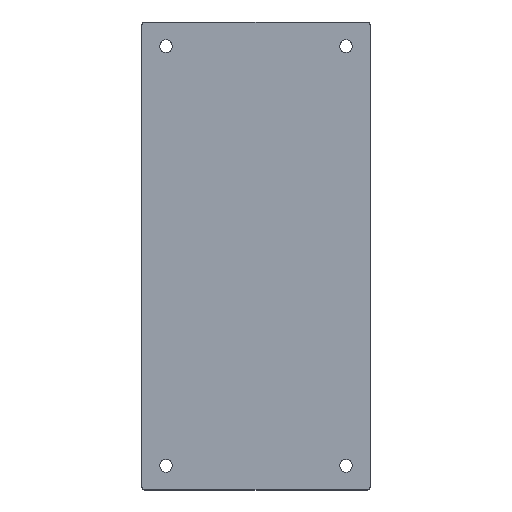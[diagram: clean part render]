
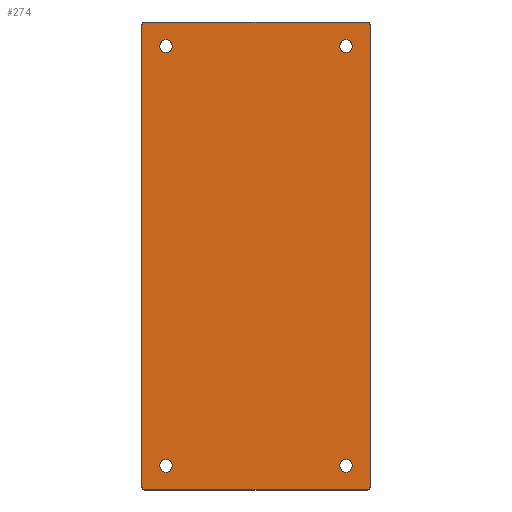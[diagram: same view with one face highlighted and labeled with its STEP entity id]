
A CAD part, top view. The second image highlights one B-rep face of the part: STEP entity #274.
In plain terms, the highlighted planar face has unit normal (0, 0, 1).
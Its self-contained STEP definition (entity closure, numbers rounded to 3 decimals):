
#274=ADVANCED_FACE('',(#706,#707,#708,#709,#710),#711,.T.);
#706=FACE_OUTER_BOUND('',#1155,.T.);
#707=FACE_BOUND('',#1156,.T.);
#708=FACE_BOUND('',#1157,.T.);
#709=FACE_BOUND('',#1158,.T.);
#710=FACE_BOUND('',#1159,.T.);
#711=PLANE('',#1160);
#1155=EDGE_LOOP('',(#2949,#2950,#2951,#2952,#2953,#2954,#2955,#2956,#2957,#2958,#2959,#2960));
#1156=EDGE_LOOP('',(#2961,#2962));
#1157=EDGE_LOOP('',(#2963,#2964));
#1158=EDGE_LOOP('',(#2965,#2966));
#1159=EDGE_LOOP('',(#2967,#2968));
#1160=AXIS2_PLACEMENT_3D('',#2969,#2970,#2971);
#2949=ORIENTED_EDGE('',*,*,#3653,.F.);
#2950=ORIENTED_EDGE('',*,*,#3654,.F.);
#2951=ORIENTED_EDGE('',*,*,#3616,.F.);
#2952=ORIENTED_EDGE('',*,*,#3655,.F.);
#2953=ORIENTED_EDGE('',*,*,#3656,.F.);
#2954=ORIENTED_EDGE('',*,*,#3620,.F.);
#2955=ORIENTED_EDGE('',*,*,#3657,.F.);
#2956=ORIENTED_EDGE('',*,*,#3658,.F.);
#2957=ORIENTED_EDGE('',*,*,#3624,.F.);
#2958=ORIENTED_EDGE('',*,*,#3659,.F.);
#2959=ORIENTED_EDGE('',*,*,#3660,.F.);
#2960=ORIENTED_EDGE('',*,*,#3628,.F.);
#2961=ORIENTED_EDGE('',*,*,#3630,.T.);
#2962=ORIENTED_EDGE('',*,*,#3652,.T.);
#2963=ORIENTED_EDGE('',*,*,#3634,.T.);
#2964=ORIENTED_EDGE('',*,*,#3650,.T.);
#2965=ORIENTED_EDGE('',*,*,#3638,.T.);
#2966=ORIENTED_EDGE('',*,*,#3648,.T.);
#2967=ORIENTED_EDGE('',*,*,#3642,.T.);
#2968=ORIENTED_EDGE('',*,*,#3646,.T.);
#2969=CARTESIAN_POINT('',(18.9,38.75,7.0));
#2970=DIRECTION('',(0.0,0.0,1.0));
#2971=DIRECTION('',(1.0,0.0,0.0));
#3616=EDGE_CURVE('',#4613,#4609,#4615,.T.);
#3620=EDGE_CURVE('',#4621,#4617,#4623,.T.);
#3624=EDGE_CURVE('',#4629,#4625,#4631,.T.);
#3628=EDGE_CURVE('',#4637,#4633,#4639,.T.);
#3630=EDGE_CURVE('',#4643,#4640,#4644,.T.);
#3634=EDGE_CURVE('',#4651,#4648,#4652,.T.);
#3638=EDGE_CURVE('',#4659,#4656,#4660,.T.);
#3642=EDGE_CURVE('',#4667,#4664,#4668,.T.);
#3646=EDGE_CURVE('',#4664,#4667,#4673,.T.);
#3648=EDGE_CURVE('',#4656,#4659,#4675,.T.);
#3650=EDGE_CURVE('',#4648,#4651,#4677,.T.);
#3652=EDGE_CURVE('',#4640,#4643,#4679,.T.);
#3653=EDGE_CURVE('',#4680,#4637,#4681,.T.);
#3654=EDGE_CURVE('',#4609,#4680,#4682,.T.);
#3655=EDGE_CURVE('',#4683,#4613,#4684,.T.);
#3656=EDGE_CURVE('',#4617,#4683,#4685,.T.);
#3657=EDGE_CURVE('',#4686,#4621,#4687,.T.);
#3658=EDGE_CURVE('',#4625,#4686,#4688,.T.);
#3659=EDGE_CURVE('',#4689,#4629,#4690,.T.);
#3660=EDGE_CURVE('',#4633,#4689,#4691,.T.);
#4609=VERTEX_POINT('',#5937);
#4613=VERTEX_POINT('',#5942);
#4615=CIRCLE('',#5945,0.5);
#4617=VERTEX_POINT('',#5947);
#4621=VERTEX_POINT('',#5952);
#4623=CIRCLE('',#5955,0.5);
#4625=VERTEX_POINT('',#5957);
#4629=VERTEX_POINT('',#5962);
#4631=CIRCLE('',#5965,0.5);
#4633=VERTEX_POINT('',#5967);
#4637=VERTEX_POINT('',#5972);
#4639=CIRCLE('',#5975,0.5);
#4640=VERTEX_POINT('',#5976);
#4643=VERTEX_POINT('',#5980);
#4644=CIRCLE('',#5981,1.05);
#4648=VERTEX_POINT('',#5986);
#4651=VERTEX_POINT('',#5990);
#4652=CIRCLE('',#5991,1.05);
#4656=VERTEX_POINT('',#5996);
#4659=VERTEX_POINT('',#6000);
#4660=CIRCLE('',#6001,1.05);
#4664=VERTEX_POINT('',#6006);
#4667=VERTEX_POINT('',#6010);
#4668=CIRCLE('',#6011,1.05);
#4673=CIRCLE('',#6017,1.05);
#4675=CIRCLE('',#6019,1.05);
#4677=CIRCLE('',#6021,1.05);
#4679=CIRCLE('',#6023,1.05);
#4680=VERTEX_POINT('',#6024);
#4681=LINE('',#6025,#6026);
#4682=CIRCLE('',#6027,0.5);
#4683=VERTEX_POINT('',#6028);
#4684=LINE('',#6029,#6030);
#4685=CIRCLE('',#6031,0.5);
#4686=VERTEX_POINT('',#6032);
#4687=LINE('',#6033,#6034);
#4688=CIRCLE('',#6035,0.5);
#4689=VERTEX_POINT('',#6036);
#4690=LINE('',#6037,#6038);
#4691=CIRCLE('',#6039,0.5);
#5937=CARTESIAN_POINT('',(37.654,77.354,7.0));
#5942=CARTESIAN_POINT('',(37.3,77.5,7.0));
#5945=AXIS2_PLACEMENT_3D('',#7160,#7161,#7162);
#5947=CARTESIAN_POINT('',(0.146,77.354,7.0));
#5952=CARTESIAN_POINT('',(0.0,77.0,7.0));
#5955=AXIS2_PLACEMENT_3D('',#7168,#7169,#7170);
#5957=CARTESIAN_POINT('',(0.146,0.146,7.0));
#5962=CARTESIAN_POINT('',(0.5,0.0,7.0));
#5965=AXIS2_PLACEMENT_3D('',#7176,#7177,#7178);
#5967=CARTESIAN_POINT('',(37.654,0.146,7.0));
#5972=CARTESIAN_POINT('',(37.8,0.5,7.0));
#5975=AXIS2_PLACEMENT_3D('',#7184,#7185,#7186);
#5976=CARTESIAN_POINT('',(5.05,73.5,7.0));
#5980=CARTESIAN_POINT('',(2.95,73.5,7.0));
#5981=AXIS2_PLACEMENT_3D('',#7188,#7189,#7190);
#5986=CARTESIAN_POINT('',(34.85,73.5,7.0));
#5990=CARTESIAN_POINT('',(32.75,73.5,7.0));
#5991=AXIS2_PLACEMENT_3D('',#7196,#7197,#7198);
#5996=CARTESIAN_POINT('',(5.05,4.0,7.0));
#6000=CARTESIAN_POINT('',(2.95,4.0,7.0));
#6001=AXIS2_PLACEMENT_3D('',#7204,#7205,#7206);
#6006=CARTESIAN_POINT('',(34.85,4.0,7.0));
#6010=CARTESIAN_POINT('',(32.75,4.0,7.0));
#6011=AXIS2_PLACEMENT_3D('',#7212,#7213,#7214);
#6017=AXIS2_PLACEMENT_3D('',#7222,#7223,#7224);
#6019=AXIS2_PLACEMENT_3D('',#7228,#7229,#7230);
#6021=AXIS2_PLACEMENT_3D('',#7234,#7235,#7236);
#6023=AXIS2_PLACEMENT_3D('',#7240,#7241,#7242);
#6024=CARTESIAN_POINT('',(37.8,77.0,7.0));
#6025=CARTESIAN_POINT('',(37.8,77.0,7.0));
#6026=VECTOR('',#7243,1.0);
#6027=AXIS2_PLACEMENT_3D('',#7244,#7245,#7246);
#6028=CARTESIAN_POINT('',(0.5,77.5,7.0));
#6029=CARTESIAN_POINT('',(0.5,77.5,7.0));
#6030=VECTOR('',#7247,1.0);
#6031=AXIS2_PLACEMENT_3D('',#7248,#7249,#7250);
#6032=CARTESIAN_POINT('',(0.0,0.5,7.0));
#6033=CARTESIAN_POINT('',(0.0,0.5,7.0));
#6034=VECTOR('',#7251,1.0);
#6035=AXIS2_PLACEMENT_3D('',#7252,#7253,#7254);
#6036=CARTESIAN_POINT('',(37.3,0.0,7.0));
#6037=CARTESIAN_POINT('',(37.3,0.0,7.0));
#6038=VECTOR('',#7255,1.0);
#6039=AXIS2_PLACEMENT_3D('',#7256,#7257,#7258);
#7160=CARTESIAN_POINT('',(37.3,77.0,7.0));
#7161=DIRECTION('',(0.0,0.0,-1.0));
#7162=DIRECTION('',(0.707,0.707,0.0));
#7168=CARTESIAN_POINT('',(0.5,77.0,7.0));
#7169=DIRECTION('',(-0.0,0.0,-1.0));
#7170=DIRECTION('',(-0.707,0.707,0.0));
#7176=CARTESIAN_POINT('',(0.5,0.5,7.0));
#7177=DIRECTION('',(-0.0,0.0,-1.0));
#7178=DIRECTION('',(-0.707,-0.707,0.0));
#7184=CARTESIAN_POINT('',(37.3,0.5,7.0));
#7185=DIRECTION('',(0.0,-0.0,-1.0));
#7186=DIRECTION('',(0.707,-0.707,0.0));
#7188=CARTESIAN_POINT('',(4.0,73.5,7.0));
#7189=DIRECTION('',(0.0,0.0,-1.0));
#7190=DIRECTION('',(1.0,0.0,0.0));
#7196=CARTESIAN_POINT('',(33.8,73.5,7.0));
#7197=DIRECTION('',(0.0,0.0,-1.0));
#7198=DIRECTION('',(1.0,0.0,0.0));
#7204=CARTESIAN_POINT('',(4.0,4.0,7.0));
#7205=DIRECTION('',(0.0,0.0,-1.0));
#7206=DIRECTION('',(1.0,0.0,0.0));
#7212=CARTESIAN_POINT('',(33.8,4.0,7.0));
#7213=DIRECTION('',(0.0,0.0,-1.0));
#7214=DIRECTION('',(1.0,0.0,0.0));
#7222=CARTESIAN_POINT('',(33.8,4.0,7.0));
#7223=DIRECTION('',(0.0,0.0,-1.0));
#7224=DIRECTION('',(1.0,0.0,0.0));
#7228=CARTESIAN_POINT('',(4.0,4.0,7.0));
#7229=DIRECTION('',(0.0,0.0,-1.0));
#7230=DIRECTION('',(1.0,0.0,0.0));
#7234=CARTESIAN_POINT('',(33.8,73.5,7.0));
#7235=DIRECTION('',(0.0,0.0,-1.0));
#7236=DIRECTION('',(1.0,0.0,0.0));
#7240=CARTESIAN_POINT('',(4.0,73.5,7.0));
#7241=DIRECTION('',(0.0,0.0,-1.0));
#7242=DIRECTION('',(1.0,0.0,0.0));
#7243=DIRECTION('',(0.0,-1.0,0.0));
#7244=CARTESIAN_POINT('',(37.3,77.0,7.0));
#7245=DIRECTION('',(0.0,0.0,-1.0));
#7246=DIRECTION('',(0.707,0.707,0.0));
#7247=DIRECTION('',(1.0,0.0,0.0));
#7248=CARTESIAN_POINT('',(0.5,77.0,7.0));
#7249=DIRECTION('',(-0.0,0.0,-1.0));
#7250=DIRECTION('',(-0.707,0.707,0.0));
#7251=DIRECTION('',(0.0,1.0,0.0));
#7252=CARTESIAN_POINT('',(0.5,0.5,7.0));
#7253=DIRECTION('',(-0.0,0.0,-1.0));
#7254=DIRECTION('',(-0.707,-0.707,0.0));
#7255=DIRECTION('',(-1.0,0.0,0.0));
#7256=CARTESIAN_POINT('',(37.3,0.5,7.0));
#7257=DIRECTION('',(0.0,-0.0,-1.0));
#7258=DIRECTION('',(0.707,-0.707,0.0));
